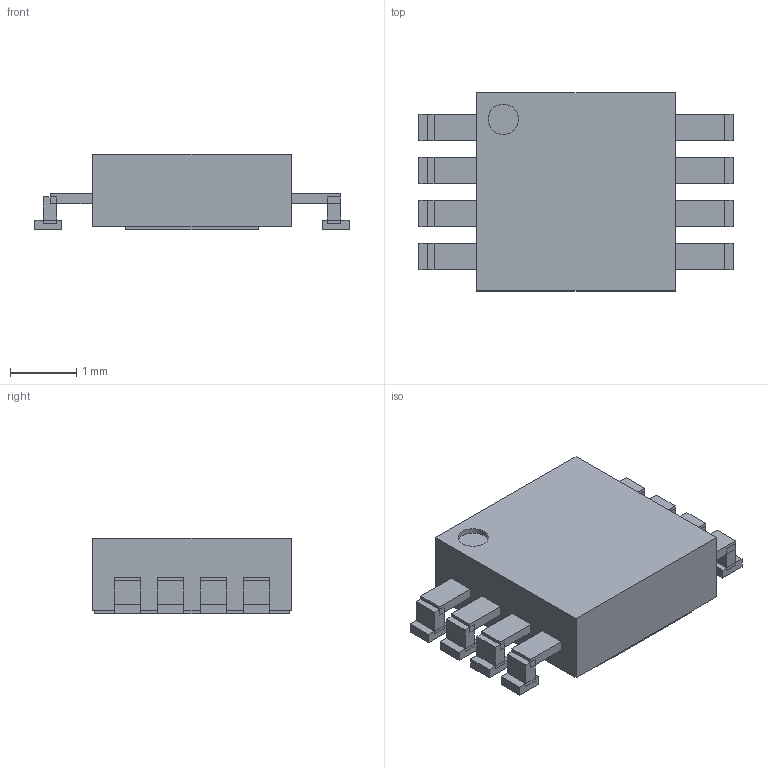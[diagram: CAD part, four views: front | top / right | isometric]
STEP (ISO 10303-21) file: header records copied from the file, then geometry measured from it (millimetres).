
FILE_DESCRIPTION(('FreeCAD Model'),'2;1');
FILE_NAME('Open CASCADE Shape Model','2026-10-15T00:26:04',('FreeCAD'),( 'FreeCAD'),'Open CASCADE STEP processor 7.8','FreeCAD','Unknown');
FILE_SCHEMA(('AUTOMOTIVE_DESIGN { 1 0 10303 214 1 1 1 1 }'));
Length unit declared in the file: millimetre
Products named in the file (1): Open CASCADE STEP translator 7.8 7
Bounding box: 4.76 x 3 x 1.15 mm (x, y, z)
Volume: 11.3 mm3; surface area: 59 mm2
Topology: 10 solids, 10 shells, 190 faces, 435 edges, 266 vertices
Faces by surface type: plane 189, cylinder 1
Full cylindrical faces by diameter (mm): 0.46 x1
Entity records: 5137 total; most frequent: CARTESIAN_POINT 892, ORIENTED_EDGE 870, DIRECTION 819, EDGE_CURVE 435, LINE 433, VECTOR 433, VERTEX_POINT 266, AXIS2_PLACEMENT_3D 193
